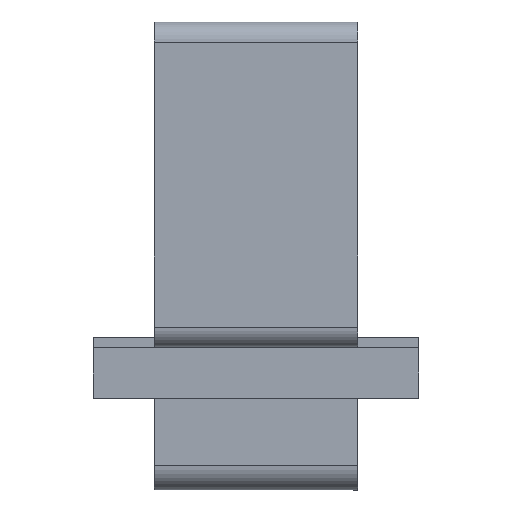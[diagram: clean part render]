
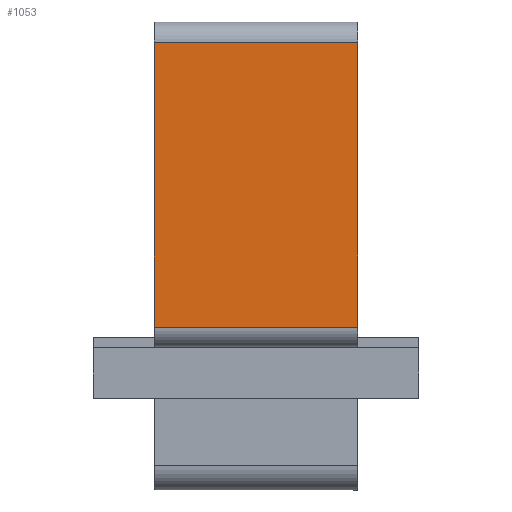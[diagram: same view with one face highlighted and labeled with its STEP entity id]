
A CAD part, left-side view. The second image highlights one B-rep face of the part: STEP entity #1053.
In plain terms, the highlighted planar face has unit normal (-1, 0, 0).
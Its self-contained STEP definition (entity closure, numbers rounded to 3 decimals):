
#2 = CARTESIAN_POINT ( 'NONE',  ( -8.003, 10., -7.5 ) ) ;
#4 = VERTEX_POINT ( 'NONE', #2 ) ;
#6 = VERTEX_POINT ( 'NONE', #608 ) ;
#80 = EDGE_CURVE ( 'NONE', #722, #776, #252, .T. ) ;
#97 = EDGE_CURVE ( 'NONE', #4, #6, #216, .T. ) ;
#108 = EDGE_CURVE ( 'NONE', #776, #6, #195, .T. ) ;
#135 = EDGE_CURVE ( 'NONE', #722, #4, #148, .T. ) ;
#147 = VECTOR ( 'NONE', #620, 1000. ) ;
#148 = LINE ( 'NONE', #625, #147 ) ;
#194 = VECTOR ( 'NONE', #700, 1000. ) ;
#195 = LINE ( 'NONE', #702, #194 ) ;
#215 = VECTOR ( 'NONE', #736, 1000. ) ;
#216 = LINE ( 'NONE', #737, #215 ) ;
#245 = VECTOR ( 'NONE', #775, 1000. ) ;
#252 = LINE ( 'NONE', #778, #245 ) ;
#345 = DIRECTION ( 'NONE',  ( 0., 0., -1. ) ) ;
#346 = DIRECTION ( 'NONE',  ( 1., 0., 0. ) ) ;
#353 = CARTESIAN_POINT ( 'NONE',  ( -8.003, 0., -7.5 ) ) ;
#356 = PLANE ( 'NONE',  #1430 ) ;
#558 = CARTESIAN_POINT ( 'NONE',  ( -8.003, 0., 6.5 ) ) ;
#570 = CARTESIAN_POINT ( 'NONE',  ( -8.003, 0., -7.5 ) ) ;
#608 = CARTESIAN_POINT ( 'NONE',  ( -8.003, 10., 6.5 ) ) ;
#620 = DIRECTION ( 'NONE',  ( 0., 1., 0. ) ) ;
#625 = CARTESIAN_POINT ( 'NONE',  ( -8.003, 0., -7.5 ) ) ;
#700 = DIRECTION ( 'NONE',  ( 0., 1., 0. ) ) ;
#702 = CARTESIAN_POINT ( 'NONE',  ( -8.003, 0., 6.5 ) ) ;
#722 = VERTEX_POINT ( 'NONE', #570 ) ;
#736 = DIRECTION ( 'NONE',  ( 0., 0., 1. ) ) ;
#737 = CARTESIAN_POINT ( 'NONE',  ( -8.003, 10., -7.5 ) ) ;
#775 = DIRECTION ( 'NONE',  ( 0., 0., 1. ) ) ;
#776 = VERTEX_POINT ( 'NONE', #558 ) ;
#778 = CARTESIAN_POINT ( 'NONE',  ( -8.003, 0., -7.5 ) ) ;
#1053 = ADVANCED_FACE ( 'NONE', ( #1115 ), #356, .F. ) ;
#1115 = FACE_OUTER_BOUND ( 'NONE', #1291, .T. ) ;
#1215 = ORIENTED_EDGE ( 'NONE', *, *, #97, .F. ) ;
#1216 = ORIENTED_EDGE ( 'NONE', *, *, #135, .F. ) ;
#1217 = ORIENTED_EDGE ( 'NONE', *, *, #80, .T. ) ;
#1218 = ORIENTED_EDGE ( 'NONE', *, *, #108, .T. ) ;
#1291 = EDGE_LOOP ( 'NONE', ( #1215, #1216, #1217, #1218 ) ) ;
#1430 = AXIS2_PLACEMENT_3D ( 'NONE', #353, #346, #345 ) ;
